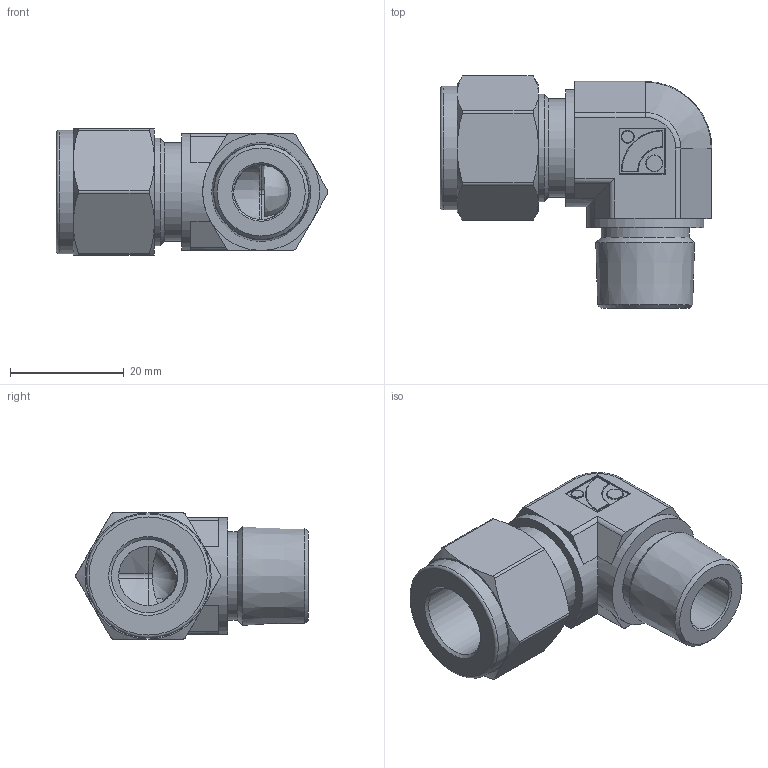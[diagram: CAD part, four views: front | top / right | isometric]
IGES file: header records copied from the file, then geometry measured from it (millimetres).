
Global section: file name: No Iges File Name specified; native system: Autodesk Inventor 2012; preprocessor: AutoDesk Inventor Iges Exporter R2012; author: 硅己绕,,1; organization: 1; date: 20150703.114151; units: millimetre
Bounding box: 47.84 x 40.95 x 22.22 mm (x, y, z)
Volume: 15696.5 mm3; surface area: 7236.6 mm2
Topology: 1 solids, 1 shells, 129 faces, 299 edges, 178 vertices
Faces by surface type: plane 43, cylinder 35, revolution 21, cone 18, torus 8, sphere 4
Full cylindrical faces by diameter (mm): 2.16 x1, 2.88 x1, 15.5 x1, 17.3 x1, 18.9 x1, 20.6 x2, 21.8 x1
